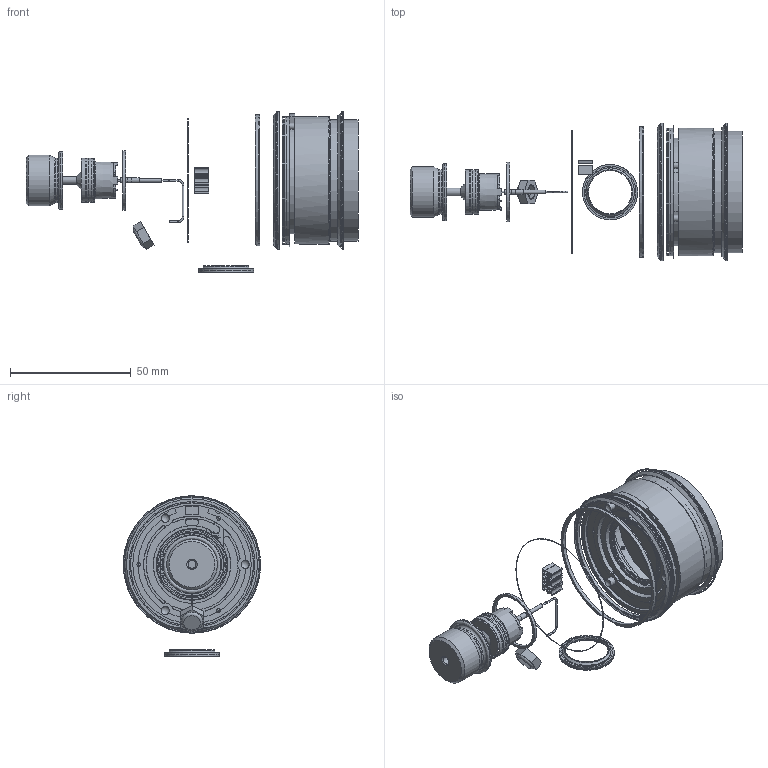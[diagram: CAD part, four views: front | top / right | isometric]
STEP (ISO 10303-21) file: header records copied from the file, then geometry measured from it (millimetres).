
FILE_DESCRIPTION(/* description */ (''),/* implementation_level */ '2;1');
FILE_NAME(/* name */ 'C:\Users\cz1166\Documents\STEP\XMPi-51x-xxxx-FN-x-x-880-100-1-x-x-000.stp',/* time_stamp */ '2020-04-22T11:50:36+02:00',/* author */ ('cz1166'),/* organization */ (''),/* preprocessor_version */ 'ST-DEVELOPER v16.5',/* originating_system */ 'Autodesk Inventor 2017',/* authorisation */ '');
FILE_SCHEMA (('AUTOMOTIVE_DESIGN { 1 0 10303 214 3 1 1 }'));
Products named in the file (1): XMPi-51x-xxxx-FN-x-x-880-100-1-x-x-000
Bounding box: 137.2 x 56.8 x 66.35 mm (x, y, z)
Volume: 7757.9 mm3; surface area: 36005.4 mm2
Topology: 46 solids, 62 shells, 668 faces, 1648 edges, 1082 vertices
Faces by surface type: plane 331, cylinder 130, bspline 97, cone 50, torus 44, sphere 16
Full cylindrical faces by diameter (mm): 0.6 x10, 0.7 x10, 0.8 x5, 1.5 x1, 1.55 x2, 1.6 x2, 2.1 x1, 2.2 x3, 2.3 x1, 2.5 x2, 3.3 x1, 3.5 x1, 5.5 x1, 13 x1, 13.7 x1, 15.8 x2, 16 x1, 17.7 x1, 17.9 x1, 18.15 x2, 18.2 x2, 18.4 x1, 18.5 x1, 20 x2, 20.6 x2, 20.955 x1, 22.5 x1, 22.8 x2, 23.8 x1, 24.5 x1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
Entity records: 72630 total; most frequent: CARTESIAN_POINT 16027, DIRECTION 10969, ORIENTED_EDGE 10692, EDGE_CURVE 5326, AXIS2_PLACEMENT_3D 3692, VERTEX_POINT 3653, LINE 3585, VECTOR 3585
